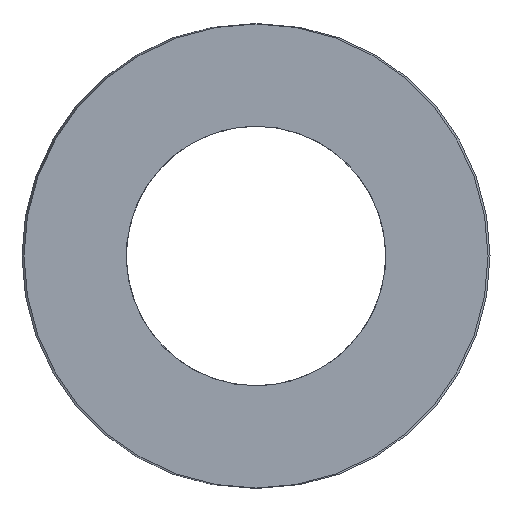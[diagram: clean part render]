
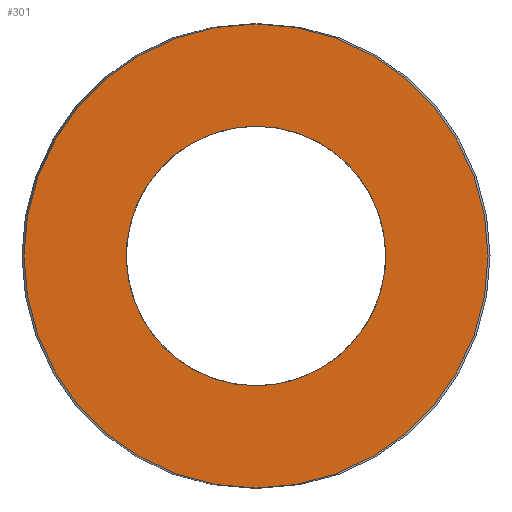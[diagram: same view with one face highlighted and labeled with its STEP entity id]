
A CAD part, left-side view. The second image highlights one B-rep face of the part: STEP entity #301.
In plain terms, the highlighted planar face has unit normal (-1, 0, 0).
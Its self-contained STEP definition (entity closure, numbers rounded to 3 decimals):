
#63=CARTESIAN_POINT('Vertex',(0.,12.25,0.)) ;
#77=CARTESIAN_POINT('Vertex',(0.,-12.25,0.)) ;
#80=CARTESIAN_POINT('Axis2P3D Location',(0.,0.,0.)) ;
#97=CARTESIAN_POINT('Axis2P3D Location',(0.,0.,0.)) ;
#232=CARTESIAN_POINT('Axis2P3D Location',(0.,6.125,0.)) ;
#242=CARTESIAN_POINT('Control Point',(0.,0.,-6.85)) ;
#243=CARTESIAN_POINT('Control Point',(0.,0.641,-6.85)) ;
#244=CARTESIAN_POINT('Control Point',(0.,1.282,-6.775)) ;
#245=CARTESIAN_POINT('Control Point',(0.,1.912,-6.625)) ;
#246=CARTESIAN_POINT('Control Point',(0.,3.124,-6.181)) ;
#247=CARTESIAN_POINT('Control Point',(0.,4.2,-5.468)) ;
#248=CARTESIAN_POINT('Control Point',(0.,4.694,-5.051)) ;
#249=CARTESIAN_POINT('Control Point',(0.,5.576,-4.107)) ;
#250=CARTESIAN_POINT('Control Point',(0.,6.215,-2.986)) ;
#251=CARTESIAN_POINT('Control Point',(0.,6.468,-2.39)) ;
#252=CARTESIAN_POINT('Control Point',(0.,6.829,-1.151)) ;
#253=CARTESIAN_POINT('Control Point',(0.,6.894,0.139)) ;
#254=CARTESIAN_POINT('Control Point',(0.,6.851,0.784)) ;
#255=CARTESIAN_POINT('Control Point',(0.,6.614,2.053)) ;
#256=CARTESIAN_POINT('Control Point',(0.,6.09,3.233)) ;
#257=CARTESIAN_POINT('Control Point',(0.,5.76,3.79)) ;
#258=CARTESIAN_POINT('Control Point',(0.,4.977,4.816)) ;
#259=CARTESIAN_POINT('Control Point',(0.,3.977,5.633)) ;
#260=CARTESIAN_POINT('Control Point',(0.,3.432,5.981)) ;
#261=CARTESIAN_POINT('Control Point',(0.,2.436,6.462)) ;
#262=CARTESIAN_POINT('Control Point',(0.,1.368,6.735)) ;
#263=CARTESIAN_POINT('Control Point',(0.,0.915,6.812)) ;
#264=CARTESIAN_POINT('Control Point',(0.,0.457,6.85)) ;
#265=CARTESIAN_POINT('Control Point',(0.,0.,6.85)) ;
#266=CARTESIAN_POINT('Vertex',(0.,0.,-6.85)) ;
#268=CARTESIAN_POINT('Vertex',(0.,0.,6.85)) ;
#272=CARTESIAN_POINT('Control Point',(0.,0.,6.85)) ;
#273=CARTESIAN_POINT('Control Point',(0.,-0.641,6.85)) ;
#274=CARTESIAN_POINT('Control Point',(0.,-1.282,6.775)) ;
#275=CARTESIAN_POINT('Control Point',(0.,-1.912,6.625)) ;
#276=CARTESIAN_POINT('Control Point',(0.,-3.124,6.181)) ;
#277=CARTESIAN_POINT('Control Point',(0.,-4.2,5.468)) ;
#278=CARTESIAN_POINT('Control Point',(0.,-4.694,5.051)) ;
#279=CARTESIAN_POINT('Control Point',(0.,-5.576,4.107)) ;
#280=CARTESIAN_POINT('Control Point',(0.,-6.215,2.986)) ;
#281=CARTESIAN_POINT('Control Point',(0.,-6.468,2.39)) ;
#282=CARTESIAN_POINT('Control Point',(0.,-6.829,1.151)) ;
#283=CARTESIAN_POINT('Control Point',(0.,-6.894,-0.139)) ;
#284=CARTESIAN_POINT('Control Point',(0.,-6.851,-0.784)) ;
#285=CARTESIAN_POINT('Control Point',(0.,-6.614,-2.053)) ;
#286=CARTESIAN_POINT('Control Point',(0.,-6.09,-3.233)) ;
#287=CARTESIAN_POINT('Control Point',(0.,-5.76,-3.79)) ;
#288=CARTESIAN_POINT('Control Point',(0.,-4.977,-4.816)) ;
#289=CARTESIAN_POINT('Control Point',(0.,-3.977,-5.633)) ;
#290=CARTESIAN_POINT('Control Point',(0.,-3.432,-5.981)) ;
#291=CARTESIAN_POINT('Control Point',(0.,-2.436,-6.462)) ;
#292=CARTESIAN_POINT('Control Point',(0.,-1.368,-6.735)) ;
#293=CARTESIAN_POINT('Control Point',(0.,-0.915,-6.812)) ;
#294=CARTESIAN_POINT('Control Point',(0.,-0.457,-6.85)) ;
#295=CARTESIAN_POINT('Control Point',(0.,0.,-6.85)) ;
#81=DIRECTION('Axis2P3D Direction',(1.,-0.,0.)) ;
#98=DIRECTION('Axis2P3D Direction',(1.,-0.,0.)) ;
#233=DIRECTION('Axis2P3D Direction',(-1.,0.,0.)) ;
#234=DIRECTION('Axis2P3D XDirection',(0.,1.,0.)) ;
#82=AXIS2_PLACEMENT_3D('Circle Axis2P3D',#80,#81,$) ;
#99=AXIS2_PLACEMENT_3D('Circle Axis2P3D',#97,#98,$) ;
#235=AXIS2_PLACEMENT_3D('Plane Axis2P3D',#232,#233,#234) ;
#238=ORIENTED_EDGE('',*,*,#84,.T.) ;
#239=ORIENTED_EDGE('',*,*,#101,.T.) ;
#298=ORIENTED_EDGE('',*,*,#270,.T.) ;
#299=ORIENTED_EDGE('',*,*,#296,.T.) ;
#300=FACE_BOUND('',#297,.T.) ;
#301=ADVANCED_FACE('392-B25-044',(#240,#300),#236,.T.) ;
#241=B_SPLINE_CURVE_WITH_KNOTS('',5,(#242,#243,#244,#245,#246,#247,#248,#249,#250,#251,#252,#253,#254,#255,#256,#257,#258,#259,#260,#261,#262,#263,#264,#265),.UNSPECIFIED.,.F.,.U.,(6,3,3,3,3,3,3,6),(0.,4.533,9.066,13.6,18.133,22.666,27.199,30.433),.UNSPECIFIED.) ;
#271=B_SPLINE_CURVE_WITH_KNOTS('',5,(#272,#273,#274,#275,#276,#277,#278,#279,#280,#281,#282,#283,#284,#285,#286,#287,#288,#289,#290,#291,#292,#293,#294,#295),.UNSPECIFIED.,.F.,.U.,(6,3,3,3,3,3,3,6),(0.,4.533,9.066,13.6,18.133,22.666,27.199,30.433),.UNSPECIFIED.) ;
#83=CIRCLE('generated circle',#82,12.25) ;
#100=CIRCLE('generated circle',#99,12.25) ;
#84=EDGE_CURVE('',#64,#78,#83,.F.) ;
#101=EDGE_CURVE('',#78,#64,#100,.F.) ;
#270=EDGE_CURVE('',#267,#269,#241,.T.) ;
#296=EDGE_CURVE('',#269,#267,#271,.T.) ;
#237=EDGE_LOOP('',(#238,#239)) ;
#297=EDGE_LOOP('',(#298,#299)) ;
#240=FACE_OUTER_BOUND('',#237,.T.) ;
#236=PLANE('Plane',#235) ;
#64=VERTEX_POINT('',#63) ;
#78=VERTEX_POINT('',#77) ;
#267=VERTEX_POINT('',#266) ;
#269=VERTEX_POINT('',#268) ;
